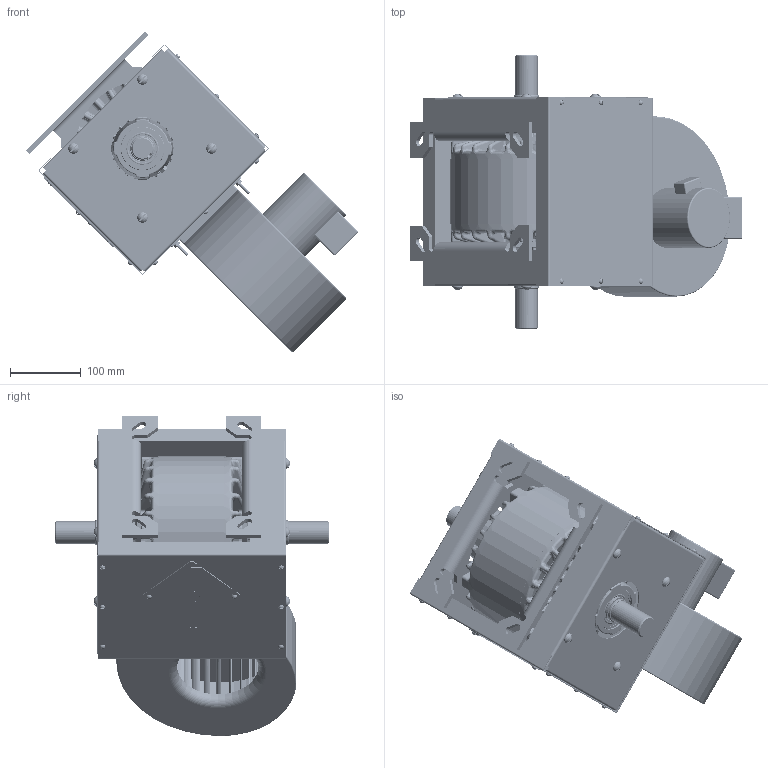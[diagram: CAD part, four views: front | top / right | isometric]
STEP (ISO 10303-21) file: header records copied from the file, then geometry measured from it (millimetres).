
FILE_DESCRIPTION(/* description */ ('STEP AP214'),/* implementation_level */ '2;1');
FILE_NAME(/* name */ '50MCA90B20_stp.step',/* time_stamp */ '2026-05-13T10:44:17-05:00',/* author */ (''),/* organization */ (''),/* preprocessor_version */ 'ST-DEVELOPER v20.1',/* originating_system */ 'Autodesk Translation Framework v15.8.0.0',/* authorisation */ '');
FILE_SCHEMA (('AUTOMOTIVE_DESIGN { 1 0 10303 214 3 1 1 }'));
Products named in the file (1): 50MCA90B20_asm_stp
Bounding box: 470.06 x 387.32 x 453.33 mm (x, y, z)
Volume: 4594626.9 mm3; surface area: 1744106.4 mm2
Topology: 5 solids, 8 shells, 3819 faces, 9432 edges, 5563 vertices
Faces by surface type: cylinder 1004, bspline 996, plane 929, torus 464, cone 262, sphere 164
Full cylindrical faces by diameter (mm): 4.039 x2, 4.166 x28, 4.366 x4, 4.762 x18, 5.556 x20, 6.35 x4, 7.144 x4, 7.849 x20, 7.925 x8, 8.731 x8, 9.525 x8, 9.576 x8, 12.7 x2, 14.986 x8, 17.475 x2, 25.4 x1, 31.674 x2, 33.401 x5, 34.138 x2, 34.884 x4, 34.999 x5, 35 x2, 40.4 x8, 54.71 x4, 56.6 x8, 61.9 x1, 61.985 x4, 72.847 x1, 76.2 x1, 82.55 x1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
Entity records: 171321 total; most frequent: CARTESIAN_POINT 86897, ORIENTED_EDGE 18676, DIRECTION 16919, EDGE_CURVE 9338, AXIS2_PLACEMENT_3D 7229, VERTEX_POINT 5563, CIRCLE 4279, EDGE_LOOP 4149
